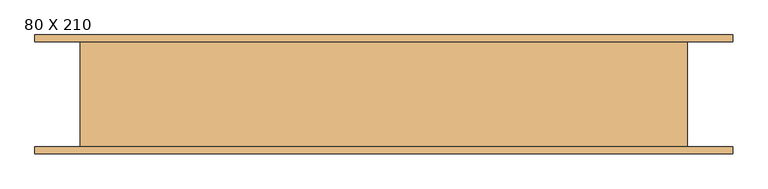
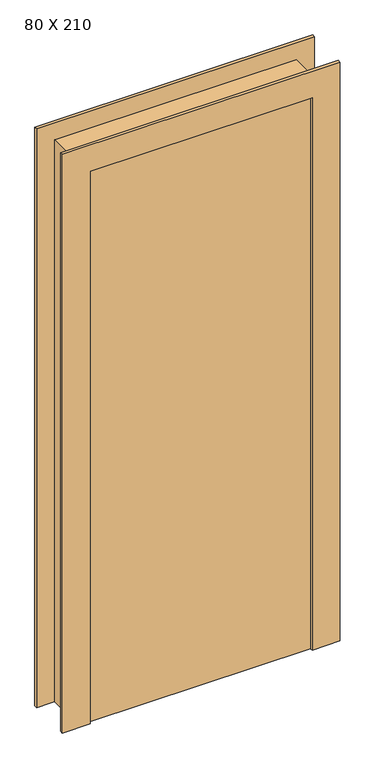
"""IFC4 building model written with IfcOpenShell, lengths in millimetres: door geometry, PORTA DE ABRIR DUPLA - 2 FOLHAS : 80 X 210."""

from ifc_helpers import new_model, si_unit, frame, origin, origin_with_axes, place, context, project, spatial, polyline, outline, extrude, faceted_brep, source, transform, mapped, element, save


def door_80_x_210_14041a6c(model_context):
    return source(origin(), model_context, "Body", "SolidModel", [
        extrude(outline(polyline([(480.0, 75.0), (480.0, 35.0), (-320.0, 35.0), (-320.0, 75.0), (480.0, 75.0)])), origin_with_axes(), (0.0, 0.0, 1.0), 2100.0),
        extrude(outline(polyline([(480.0, -75.0), (-320.0, -75.0), (-320.0, -35.0), (480.0, -35.0), (480.0, -75.0)])), origin_with_axes(), (0.0, 0.0, 1.0), 2100.0),
        extrude(outline(polyline([(2100.0, 480.0), (0.0, 480.0), (0.0, 580.0), (2200.0, 580.0), (2200.0, -420.0), (0.0, -420.0), (0.0, -320.0), (2100.0, -320.0), (2100.0, 480.0)])), frame((0.0, 75.0, 0.0), z_axis=(0.0, 1.0, 0.0), x_axis=(0.0, 0.0, 1.0)), (0.0, 0.0, 1.0), 10.0),
        extrude(outline(polyline([(2100.0, -320.0), (2100.0, 480.0), (0.0, 480.0), (0.0, 580.0), (2200.0, 580.0), (2200.0, -420.0), (0.0, -420.0), (0.0, -320.0), (2100.0, -320.0)])), frame((0.0, -85.0, 0.0), z_axis=(0.0, 1.0, 0.0), x_axis=(0.0, 0.0, 1.0)), (0.0, 0.0, 1.0), 10.0),
        faceted_brep([(-355.0, 75.0, 0.0), (-320.0, 75.0, 0.0), (-320.0, 35.0, 0.0), (-310.0, 35.0, 0.0), (-310.0, -35.0, 0.0), (-320.0, -35.0, 0.0), (-320.0, -75.0, 0.0), (-355.0, -75.0, 0.0), (-355.0, 75.0, 2135.0), (515.0, 75.0, 2135.0), (515.0, 75.0, 0.0), (480.0, 75.0, 0.0), (480.0, 75.0, 2100.0), (-320.0, 75.0, 2100.0), (-320.0, 35.0, 2100.0), (480.0, 35.0, 2100.0), (480.0, 35.0, 0.0), (470.0, 35.0, 0.0), (470.0, 35.0, 2090.0), (-310.0, 35.0, 2090.0), (-310.0, -35.0, 2090.0), (470.0, -35.0, 2090.0), (470.0, -35.0, 0.0), (480.0, -35.0, 0.0), (480.0, -35.0, 2100.0), (-320.0, -35.0, 2100.0), (-320.0, -75.0, 2100.0), (480.0, -75.0, 2100.0), (480.0, -75.0, 0.0), (515.0, -75.0, 0.0), (515.0, -75.0, 2135.0), (-355.0, -75.0, 2135.0)], [[[0, 1, 2, 3, 4, 5, 6, 7]], [[1, 0, 8, 9, 10, 11, 12, 13]], [[2, 1, 13, 14]], [[3, 2, 14, 15, 16, 17, 18, 19]], [[4, 3, 19, 20]], [[5, 4, 20, 21, 22, 23, 24, 25]], [[6, 5, 25, 26]], [[7, 6, 26, 27, 28, 29, 30, 31]], [[0, 7, 31, 8]], [[9, 30, 29, 10]], [[10, 29, 28, 23, 22, 17, 16, 11]], [[15, 12, 11, 16]], [[21, 18, 17, 22]], [[27, 24, 23, 28]], [[14, 13, 12, 15]], [[20, 19, 18, 21]], [[26, 25, 24, 27]], [[8, 31, 30, 9]]]),
    ])


if __name__ == "__main__":
    model = new_model("IFC4")
    model_context = context("Model", 3, world=origin())
    ifc_project = project(units=[si_unit("LENGTHUNIT", "METRE", prefix="MILLI")], contexts=[model_context])
    site = spatial("IfcSite", under=ifc_project)
    building = spatial("IfcBuilding", under=site)
    placement = place(None, origin())
    door_80_x_210_shape = door_80_x_210_14041a6c(model_context)
    element("IfcDoor", 1, ObjectType="PORTA DE ABRIR DUPLA - 2 FOLHAS : 80 X 210", at=placement, inside=building, context=model_context, shape_type="MappedRepresentation", body=[
        mapped(door_80_x_210_shape, transform((0.0, 0.0, 0.0), x_axis=(1.0, 0.0, 0.0), y_axis=(0.0, 1.0, 0.0), z_axis=(0.0, 0.0, 1.0))),
    ])
    save(model, "model.ifc")
